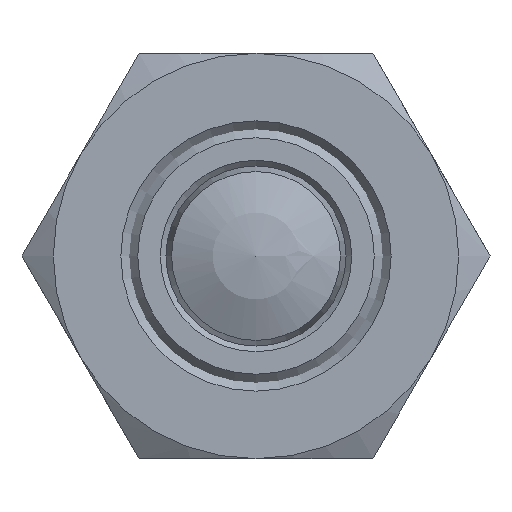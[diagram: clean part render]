
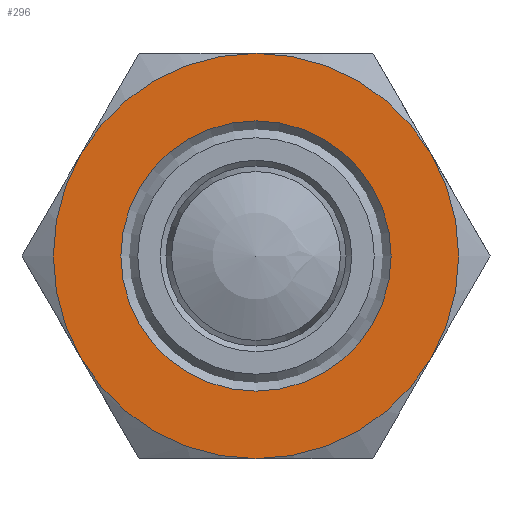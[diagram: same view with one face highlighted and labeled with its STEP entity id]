
A CAD part, front view. The second image highlights one B-rep face of the part: STEP entity #296.
In plain terms, the highlighted planar face has unit normal (0, -1, 0).
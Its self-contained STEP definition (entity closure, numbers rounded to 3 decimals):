
#296 = ADVANCED_FACE( '', ( #437, #438 ), #439, .F. );
#437 = FACE_BOUND( '', #581, .T. );
#438 = FACE_OUTER_BOUND( '', #582, .T. );
#439 = PLANE( '', #583 );
#581 = EDGE_LOOP( '', ( #913 ) );
#582 = EDGE_LOOP( '', ( #914, #915, #916, #917, #918, #919 ) );
#583 = AXIS2_PLACEMENT_3D( '', #920, #921, #922 );
#913 = ORIENTED_EDGE( '', *, *, #1020, .F. );
#914 = ORIENTED_EDGE( '', *, *, #1023, .T. );
#915 = ORIENTED_EDGE( '', *, *, #1024, .T. );
#916 = ORIENTED_EDGE( '', *, *, #990, .T. );
#917 = ORIENTED_EDGE( '', *, *, #1015, .T. );
#918 = ORIENTED_EDGE( '', *, *, #1016, .T. );
#919 = ORIENTED_EDGE( '', *, *, #1017, .T. );
#920 = CARTESIAN_POINT( '', ( 18., 0., 0. ) );
#921 = DIRECTION( '', ( 0., 1., 0. ) );
#922 = DIRECTION( '', ( 0., 0., 1. ) );
#990 = EDGE_CURVE( '', #1126, #1127, #1128, .T. );
#1015 = EDGE_CURVE( '', #1127, #1108, #1165, .T. );
#1016 = EDGE_CURVE( '', #1108, #1120, #1166, .T. );
#1017 = EDGE_CURVE( '', #1120, #1167, #1168, .T. );
#1020 = EDGE_CURVE( '', #1171, #1171, #1172, .T. );
#1023 = EDGE_CURVE( '', #1167, #1135, #1177, .T. );
#1024 = EDGE_CURVE( '', #1135, #1126, #1178, .T. );
#1108 = VERTEX_POINT( '', #1401 );
#1120 = VERTEX_POINT( '', #1443 );
#1126 = VERTEX_POINT( '', #1477 );
#1127 = VERTEX_POINT( '', #1478 );
#1128 = CIRCLE( '', #1479, 18. );
#1135 = VERTEX_POINT( '', #1501 );
#1165 = CIRCLE( '', #1617, 18. );
#1166 = CIRCLE( '', #1618, 18. );
#1167 = VERTEX_POINT( '', #1619 );
#1168 = CIRCLE( '', #1620, 18. );
#1171 = VERTEX_POINT( '', #1637 );
#1172 = CIRCLE( '', #1638, 12. );
#1177 = CIRCLE( '', #1643, 18. );
#1178 = CIRCLE( '', #1644, 18. );
#1401 = CARTESIAN_POINT( '', ( -18., 0., 0. ) );
#1443 = CARTESIAN_POINT( '', ( -9., 0., -15.588 ) );
#1477 = CARTESIAN_POINT( '', ( 9., 0., 15.588 ) );
#1478 = CARTESIAN_POINT( '', ( -9., 0., 15.588 ) );
#1479 = AXIS2_PLACEMENT_3D( '', #1729, #1730, #1731 );
#1501 = CARTESIAN_POINT( '', ( 18., 0., 0. ) );
#1617 = AXIS2_PLACEMENT_3D( '', #1756, #1757, #1758 );
#1618 = AXIS2_PLACEMENT_3D( '', #1759, #1760, #1761 );
#1619 = CARTESIAN_POINT( '', ( 9., 0., -15.588 ) );
#1620 = AXIS2_PLACEMENT_3D( '', #1762, #1763, #1764 );
#1637 = CARTESIAN_POINT( '', ( 0., 0., -12. ) );
#1638 = AXIS2_PLACEMENT_3D( '', #1765, #1766, #1767 );
#1643 = AXIS2_PLACEMENT_3D( '', #1774, #1775, #1776 );
#1644 = AXIS2_PLACEMENT_3D( '', #1777, #1778, #1779 );
#1729 = CARTESIAN_POINT( '', ( 0., 0., 0. ) );
#1730 = DIRECTION( '', ( 0., -1., 0. ) );
#1731 = DIRECTION( '', ( 0., 0., -1. ) );
#1756 = CARTESIAN_POINT( '', ( 0., 0., 0. ) );
#1757 = DIRECTION( '', ( 0., -1., 0. ) );
#1758 = DIRECTION( '', ( 0., 0., -1. ) );
#1759 = CARTESIAN_POINT( '', ( 0., 0., 0. ) );
#1760 = DIRECTION( '', ( 0., -1., 0. ) );
#1761 = DIRECTION( '', ( 0., 0., -1. ) );
#1762 = CARTESIAN_POINT( '', ( 0., 0., 0. ) );
#1763 = DIRECTION( '', ( 0., -1., 0. ) );
#1764 = DIRECTION( '', ( 0., 0., -1. ) );
#1765 = CARTESIAN_POINT( '', ( 0., 0., 0. ) );
#1766 = DIRECTION( '', ( 0., -1., 0. ) );
#1767 = DIRECTION( '', ( 0., 0., -1. ) );
#1774 = CARTESIAN_POINT( '', ( 0., 0., 0. ) );
#1775 = DIRECTION( '', ( 0., -1., 0. ) );
#1776 = DIRECTION( '', ( 0., 0., -1. ) );
#1777 = CARTESIAN_POINT( '', ( 0., 0., 0. ) );
#1778 = DIRECTION( '', ( 0., -1., 0. ) );
#1779 = DIRECTION( '', ( 0., 0., -1. ) );
